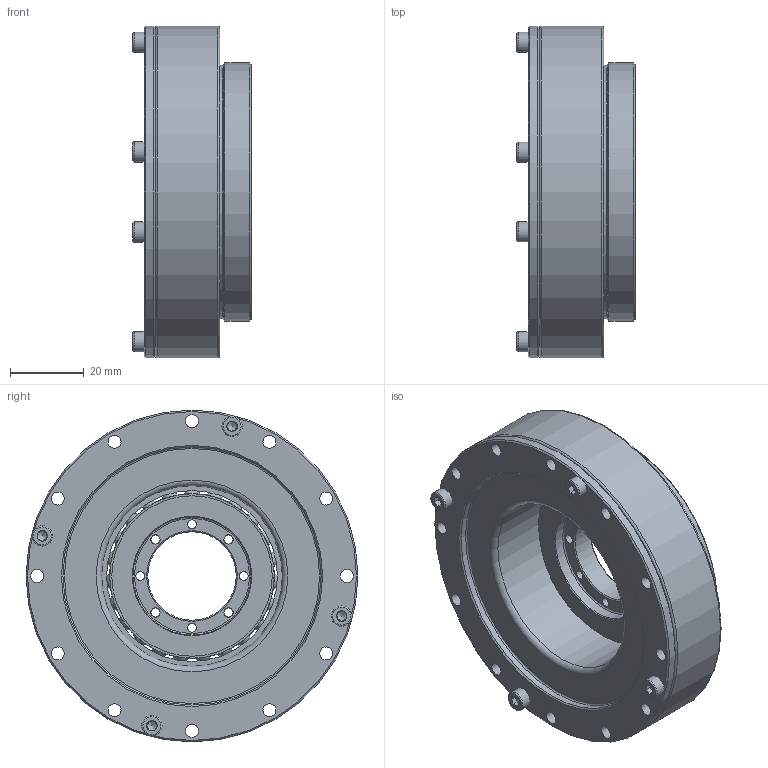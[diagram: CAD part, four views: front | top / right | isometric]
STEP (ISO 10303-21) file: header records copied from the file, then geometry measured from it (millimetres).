
FILE_DESCRIPTION(/* description */ (''),/* implementation_level */ '2;1');
FILE_NAME(/* name */ 'Getriebeset_HTG_Plus_BG51_HS.stp',/* time_stamp */ '2026-03-10T08:45:35+01:00',/* author */ (''),/* organization */ (''),/* preprocessor_version */ 'ST-DEVELOPER v19.4',/* originating_system */ 'SIEMENS PLM Software NX2212.9120',/* authorisation */ '');
FILE_SCHEMA (('AUTOMOTIVE_DESIGN { 1 0 10303 214 3 1 1 1 }'));
Length unit declared in the file: millimetre
Products named in the file (1): Getriebeset_HTG_Plus_BG51_HS
Bounding box: 32 x 90 x 90 mm (x, y, z)
Volume: 101756.9 mm3; surface area: 82182.2 mm2
Topology: 43 solids, 43 shells, 583 faces, 1533 edges, 1012 vertices
Faces by surface type: cylinder 173, plane 151, cone 149, torus 73, sphere 35, bspline 2
Full cylindrical faces by diameter (mm): 2.5 x8, 2.6 x24, 3 x8, 3.4 x4, 3.5 x44, 5.5 x8, 6.5 x4, 24 x1, 32 x1, 35 x2, 38.5 x3, 43.5 x1, 46.3 x2, 49 x2, 49.9 x1, 50.5 x1, 51.2 x1, 51.3 x1, 54 x2, 54.1 x1, 57.2 x1, 60.8 x1, 68.8 x3, 70 x2, 70.2 x2, 72.6 x1, 78 x3, 78.9 x1, 90 x2
Entity records: 19080 total; most frequent: CARTESIAN_POINT 6670, DIRECTION 2446, ORIENTED_EDGE 2026, AXIS2_PLACEMENT_3D 1161, EDGE_CURVE 1013, EDGE_LOOP 956, VERTEX_POINT 814, FACE_BOUND 749
